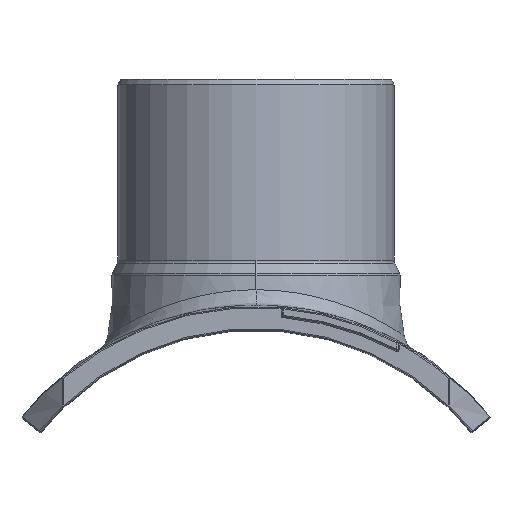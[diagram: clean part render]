
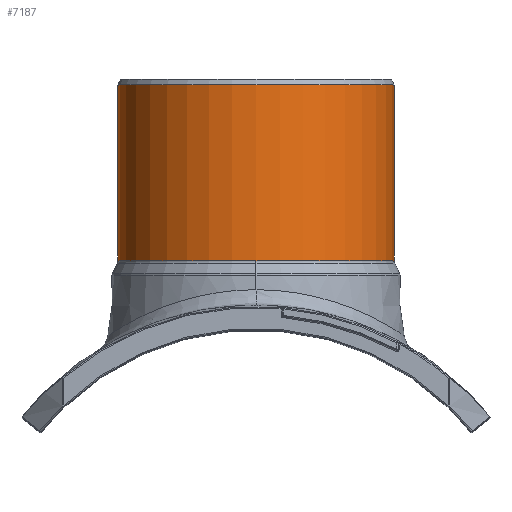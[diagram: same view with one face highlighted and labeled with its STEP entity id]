
A CAD part, top view. The second image highlights one B-rep face of the part: STEP entity #7187.
In plain terms, the highlighted cylindrical face has radius 125 mm (diameter 250 mm), a partial arc.
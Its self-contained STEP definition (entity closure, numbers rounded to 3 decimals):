
#724=CARTESIAN_POINT('',(0.,471.,0.));
#725=DIRECTION('',(0.,1.,0.));
#726=DIRECTION('',(-1.,0.,0.));
#727=AXIS2_PLACEMENT_3D('',#724,#725,#726);
#739=CARTESIAN_POINT('',(0.,312.083,0.));
#740=DIRECTION('',(0.,-1.,0.));
#741=DIRECTION('',(1.,0.,0.));
#742=AXIS2_PLACEMENT_3D('',#739,#740,#741);
#747=CARTESIAN_POINT('',(0.,312.083,0.));
#748=DIRECTION('',(0.,-1.,0.));
#749=DIRECTION('',(0.,0.,1.));
#750=AXIS2_PLACEMENT_3D('',#747,#748,#749);
#755=DIRECTION('',(0.,-1.,0.));
#756=VECTOR('',#755,158.917);
#757=CARTESIAN_POINT('',(-125.,471.,0.));
#758=LINE('151588',#757,#756);
#6025=DIRECTION('',(0.,-1.,0.));
#6026=VECTOR('',#6025,158.917);
#6027=CARTESIAN_POINT('',(125.,471.,0.));
#6028=LINE('151587',#6027,#6026);
#6036=CARTESIAN_POINT('',(125.,471.,0.));
#6037=CARTESIAN_POINT('',(-125.,471.,0.));
#6038=VERTEX_POINT('',#6036);
#6039=VERTEX_POINT('',#6037);
#6060=CARTESIAN_POINT('',(125.,312.083,0.));
#6061=CARTESIAN_POINT('',(0.,312.083,125.));
#6062=VERTEX_POINT('',#6060);
#6063=VERTEX_POINT('',#6061);
#6064=CARTESIAN_POINT('',(-125.,312.083,0.));
#6065=VERTEX_POINT('',#6064);
#7171=CARTESIAN_POINT('',(0.,476.,0.));
#7172=DIRECTION('',(0.,1.,0.));
#7173=DIRECTION('',(1.,0.,0.));
#7174=AXIS2_PLACEMENT_3D('',#7171,#7172,#7173);
#7175=CYLINDRICAL_SURFACE('4584',#7174,125.);
#7177=ORIENTED_EDGE('151579',*,*,#7176,.T.);
#7179=ORIENTED_EDGE('151581',*,*,#7178,.T.);
#7181=ORIENTED_EDGE('151588',*,*,#7180,.F.);
#7182=ORIENTED_EDGE('4600',*,*,#7165,.T.);
#7184=ORIENTED_EDGE('151587',*,*,#7183,.T.);
#7185=EDGE_LOOP('4584',(#7177,#7179,#7181,#7182,#7184));
#7186=FACE_OUTER_BOUND('4584',#7185,.F.);
#728=CIRCLE('4600',#727,125.);
#743=CIRCLE('151579',#742,125.);
#751=CIRCLE('151581',#750,125.);
#7165=EDGE_CURVE('4600',#6039,#6038,#728,.T.);
#7176=EDGE_CURVE('151579',#6062,#6063,#743,.T.);
#7178=EDGE_CURVE('151581',#6063,#6065,#751,.T.);
#7180=EDGE_CURVE('151588',#6039,#6065,#758,.T.);
#7183=EDGE_CURVE('151587',#6038,#6062,#6028,.T.);
#7187=ADVANCED_FACE('4584',(#7186),#7175,.T.);
